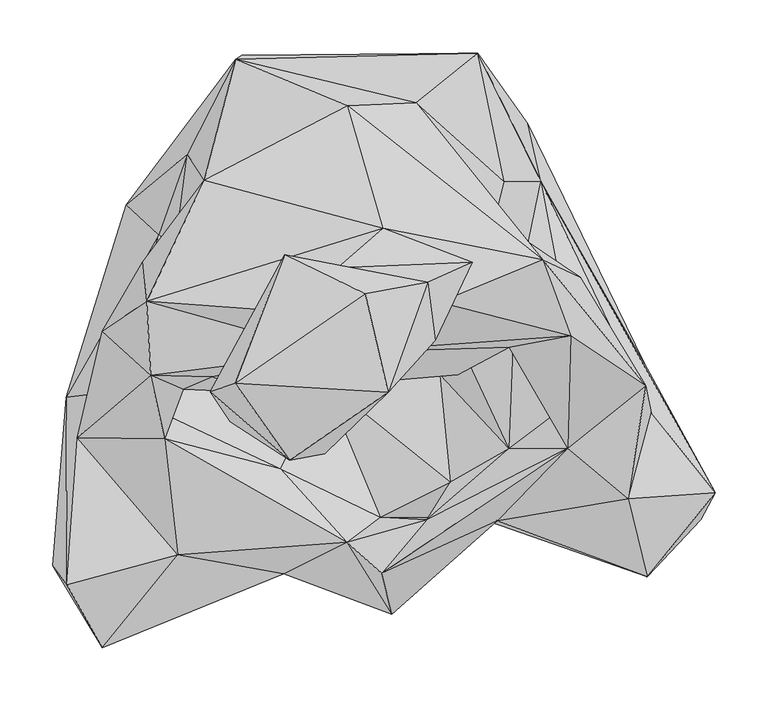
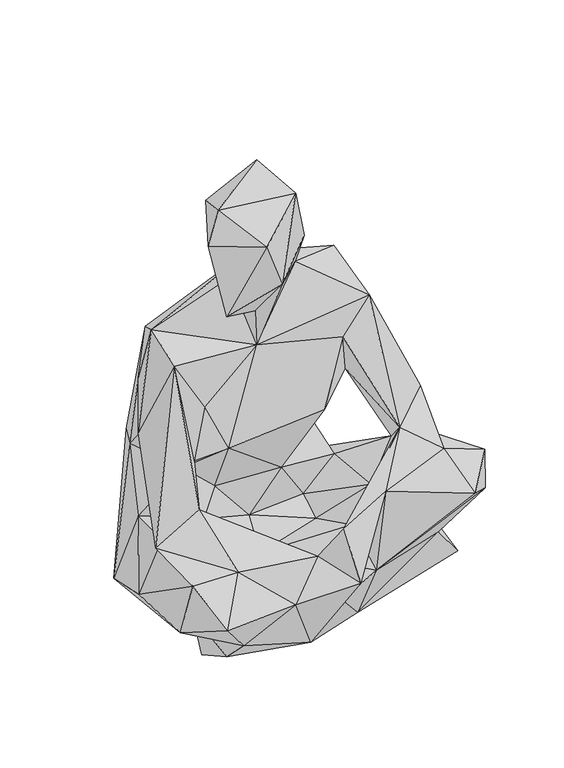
"""IFC4 building model written with IfcOpenShell, lengths in millimetres: geographic element geometry, Enscape AssetDefinition - Alyssa 001 Sitting : Enscape AssetDefinition - Alyssa 001 Sitting."""

from ifc_helpers import new_model, si_unit, origin, place, context, project, spatial, triangles, source, transform, mapped, element, save


def geographic_element_6b0fac0e(model_context):
    return source(origin(), model_context, "Body", "Tessellation", [
        triangles([(-14.4410006, -141.6759907, -2.4550001), (-195.4110011, -91.7029963, 5.8479999), (-80.7549999, -206.5759991, 136.616007), (-198.0679974, -179.2689995, 55.1409974), (150.5650012, 54.2090004, 17.8520013), (-209.955008, -87.3600019, 88.3349969), (-251.9260108, -276.7269861, 186.8300024), (-191.971004, -225.0629884, 103.2780074), (-298.568985, -199.3589978, 151.78999), (-285.3600165, -217.1999873, 252.4380072), (-286.2400137, -39.8930001, 128.7669949), (-239.3910019, -34.4370014, 221.1900054), (-180.6149929, -188.5929943, 227.0669904), (-198.6590042, 113.5519988, 164.9540121), (-43.5280026, -23.8440002, 118.868998), (-121.5950035, 29.2050011, 182.7759984), (-186.9400065, 71.801999, 392.4619821), (-87.6920038, 50.7610004, 225.2099998), (-135.818999, 76.0340036, 263.516001), (-171.8609851, 189.3099927, 256.5250033), (-126.2200028, 279.0659966, 215.4570159), (-229.5620052, 141.6770081, 31.1570008), (-120.3740024, 282.7559967, 49.8679999), (-133.163002, 58.8020022, 12.5310007), (-96.1969989, 202.5159998, -5.2970002), (57.9759988, 280.6040023, 42.7810006), (102.6500025, 284.8629902, 216.1680008), (90.1110059, -117.6029961, 7.8619997), (149.7579919, 217.949996, 69.4130006), (201.259009, -33.4810028, 8.1430003), (245.9039947, -114.7840003, 115.0410067), (22.8989997, -181.0880018, 94.9330045), (287.4459902, -107.9849967, 57.525999), (259.5619909, -7.8180003, 127.2249923), (326.478982, -130.2859973, 263.4580104), (312.8010015, -155.6109959, 205.8070054), (262.6970103, -209.7340004, 244.6569959), (244.3220055, -135.7650052, 297.9840098), (266.0909892, -54.5190014, 274.6070028), (200.2370147, -37.3440005, 278.7739905), (261.2049866, -29.3489989, 355.340011), (162.0409995, 163.7859874, 145.2000034), (145.6820053, 21.4800002, 399.8140042), (199.0330002, 73.4209999, 434.0930165), (145.5409982, 109.4459994, 448.3590062), (83.361, -18.8129993, 362.6640189), (110.8030023, 97.2059943, 285.9739871), (44.6020014, 238.0030053, 385.9419949), (127.4149971, 163.601987, 239.6620065), (163.7200031, 89.8229966, 601.6859845), (73.385001, 36.327, 161.0150083), (137.0799958, 43.0999991, 215.7139951), (131.6750023, -88.5610006, 235.2889994), (66.5059969, -18.6759994, 147.507993), (-32.078999, 33.2010008, 157.4339951), (27.1860018, 28.8710007, 236.0260002), (-110.5479943, -35.507001, 361.1770094), (-147.9659956, -20.5660003, 450.1539911), (132.3740058, 6.9090004, 477.7019826), (-35.8499988, 1.967, 523.4150353), (187.4220084, -88.0129962, 331.7300059), (21.3539995, -245.0820063, 168.3689926), (120.7690001, -156.5870082, 266.8319869), (11.778, -206.4350012, 258.2609984), (-21.1630001, -176.9879977, 196.6020076), (54.3079996, -155.6549975, 217.9190022), (10.2589998, -153.3450005, 161.7269925), (104.5440003, -154.1440069, 110.0100002), (76.6429962, -120.1599984, 191.9280015), (-84.1979947, -107.6520046, 203.2280022), (-175.6039979, -32.4140008, 356.9180034), (-251.8149892, 22.3960008, 406.8549989), (-193.0740071, -79.3669942, 292.2640101), (-275.6200224, -78.299999, 242.2900074), (-206.4249909, -19.1149988, 552.1930026), (-213.786006, 87.8929999, 466.5020122), (-210.1860077, 50.2859976, 585.0679945), (-20.4610013, 235.1430054, 446.8370061), (-155.6169911, 164.8060015, 503.9610266), (13.1660001, 119.5409955, 623.338987), (-29.7960011, 82.1380006, 683.586981), (62.4799981, 13.809, 703.6800133), (97.081002, 87.1979933, 677.231991), (-41.8709998, -93.496001, 706.0189693), (66.504003, 49.6650008, 628.0790319), (190.1010055, 18.0520004, 535.9079865), (17.9849998, -35.2869995, 834.3619349), (55.4060022, 68.4370018, 738.4610298), (-3.5230002, 57.6119994, 854.2119587), (-74.9799982, -99.4519964, 796.1269867), (-126.330007, -27.0659987, 845.5629953), (-149.9699975, -35.1499984, 785.7739849), (-131.2370022, -63.386002, 652.8819511), (-66.462999, 40.1290004, 646.4250051), (-79.8839957, 94.2120001, 776.2170101), (-65.5670008, -44.3800037, 630.9090191)], [[7, 8, 3], [13, 3, 65], [7, 3, 13], [60, 96, 94], [96, 60, 84], [96, 93, 94], [94, 93, 95], [84, 93, 96], [95, 93, 92], [90, 92, 93], [84, 90, 93], [92, 91, 95], [91, 92, 90], [91, 89, 95], [90, 84, 87], [91, 87, 89], [91, 90, 87], [89, 87, 88], [89, 88, 95], [84, 82, 87], [87, 82, 88], [85, 86, 50], [60, 86, 85], [85, 84, 60], [84, 85, 82], [83, 88, 82], [83, 82, 85], [88, 83, 81], [95, 88, 81], [94, 95, 81], [80, 85, 50], [83, 85, 80], [80, 81, 83], [50, 78, 80], [80, 94, 81], [78, 79, 80], [80, 77, 94], [77, 80, 79], [77, 60, 94], [79, 76, 77], [76, 72, 77], [76, 17, 72], [76, 79, 17], [17, 71, 72], [77, 75, 60], [58, 60, 75], [75, 71, 58], [72, 75, 77], [74, 75, 72], [74, 13, 73], [74, 73, 75], [13, 65, 73], [73, 71, 75], [71, 12, 72], [71, 73, 12], [12, 74, 72], [65, 70, 73], [70, 12, 73], [12, 70, 15], [15, 70, 67], [70, 65, 67], [15, 67, 69], [67, 68, 69], [67, 32, 68], [3, 62, 65], [32, 67, 62], [66, 62, 67], [67, 65, 66], [63, 62, 66], [69, 68, 63], [63, 66, 69], [66, 65, 64], [64, 62, 63], [65, 62, 64], [64, 61, 66], [64, 63, 61], [60, 59, 86], [61, 86, 59], [46, 59, 60], [57, 46, 60], [57, 71, 17], [57, 60, 58], [71, 57, 58], [18, 56, 57], [57, 56, 46], [18, 55, 56], [15, 54, 55], [15, 69, 54], [55, 54, 51], [55, 51, 56], [53, 66, 61], [69, 66, 53], [54, 69, 53], [54, 53, 51], [61, 40, 53], [51, 53, 52], [56, 51, 52], [53, 40, 52], [52, 40, 42], [49, 42, 27], [52, 42, 49], [78, 50, 48], [48, 49, 27], [47, 52, 49], [48, 47, 49], [56, 52, 47], [47, 46, 56], [50, 45, 48], [47, 48, 45], [47, 43, 46], [59, 43, 61], [45, 43, 47], [46, 43, 59], [40, 61, 43], [44, 40, 43], [44, 45, 50], [44, 43, 45], [41, 44, 50], [86, 61, 41], [86, 41, 50], [42, 40, 39], [41, 39, 44], [39, 40, 44], [38, 41, 61], [41, 38, 39], [63, 38, 61], [37, 38, 63], [63, 68, 37], [38, 37, 35], [35, 42, 39], [38, 35, 39], [37, 68, 36], [37, 36, 35], [36, 68, 31], [35, 36, 34], [34, 36, 31], [34, 42, 35], [31, 33, 34], [31, 28, 33], [68, 32, 28], [68, 28, 31], [30, 33, 28], [33, 30, 34], [42, 34, 29], [29, 34, 30], [27, 42, 29], [5, 30, 28], [5, 29, 30], [29, 26, 27], [5, 26, 29], [26, 5, 25], [5, 24, 25], [26, 23, 27], [26, 25, 23], [25, 22, 23], [22, 25, 24], [48, 21, 78], [21, 23, 22], [21, 79, 78], [27, 21, 48], [23, 21, 27], [22, 20, 21], [20, 79, 21], [17, 79, 20], [18, 57, 19], [19, 57, 17], [19, 17, 20], [16, 18, 19], [16, 55, 18], [16, 15, 55], [12, 15, 16], [14, 12, 16], [22, 14, 20], [20, 14, 19], [14, 16, 19], [11, 14, 22], [11, 12, 14], [74, 10, 13], [12, 10, 74], [11, 10, 12], [10, 7, 13], [9, 7, 10], [22, 9, 11], [7, 9, 8], [9, 10, 11], [9, 22, 6], [6, 8, 9], [22, 24, 6], [24, 2, 6], [4, 8, 6], [2, 4, 6], [5, 1, 24], [1, 62, 3], [1, 28, 32], [62, 1, 32], [4, 1, 8], [1, 4, 2], [28, 1, 5], [1, 3, 8], [1, 2, 24]]),
    ])


if __name__ == "__main__":
    model = new_model("IFC4")
    model_context = context("Model", 3, world=origin())
    ifc_project = project(units=[si_unit("LENGTHUNIT", "METRE", prefix="MILLI")], contexts=[model_context])
    site = spatial("IfcSite", under=ifc_project)
    building = spatial("IfcBuilding", under=site)
    placement = place(None, origin())
    geographic_element_shape = geographic_element_6b0fac0e(model_context)
    element("IfcGeographicElement", 1, ObjectType="Enscape AssetDefinition - Alyssa 001 Sitting : Enscape AssetDefinition - Alyssa 001 Sitting", at=placement, inside=building, context=model_context, shape_type="MappedRepresentation", body=[
        mapped(geographic_element_shape, transform((0.0, 0.0, 0.0), x_axis=(1.0, 0.0, 0.0), y_axis=(0.0, 1.0, 0.0), z_axis=(0.0, 0.0, 1.0))),
    ])
    save(model, "model.ifc")
